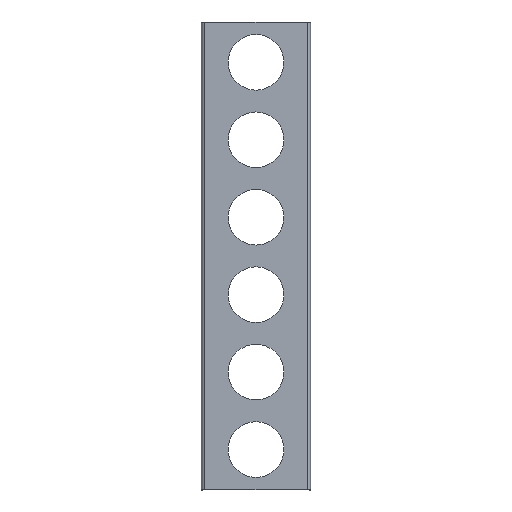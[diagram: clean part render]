
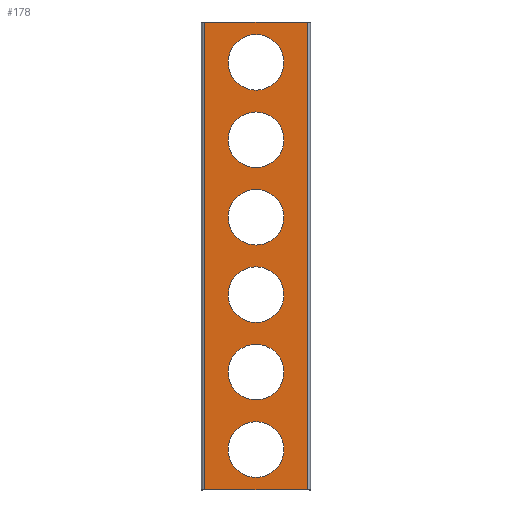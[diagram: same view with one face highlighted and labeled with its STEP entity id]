
A CAD part, top view. The second image highlights one B-rep face of the part: STEP entity #178.
In plain terms, the highlighted planar face has unit normal (0, 0, 1).
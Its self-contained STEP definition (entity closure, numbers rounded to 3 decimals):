
#1 = CARTESIAN_POINT ( 'NONE',  ( -25.5, 179., 40. ) ) ;
#6 = VERTEX_POINT ( 'NONE', #53 ) ;
#8 = VERTEX_POINT ( 'NONE', #54 ) ;
#9 = VERTEX_POINT ( 'NONE', #1 ) ;
#13 = VERTEX_POINT ( 'NONE', #57 ) ;
#15 = VERTEX_POINT ( 'NONE', #59 ) ;
#16 = VERTEX_POINT ( 'NONE', #60 ) ;
#17 = VERTEX_POINT ( 'NONE', #61 ) ;
#19 = VERTEX_POINT ( 'NONE', #63 ) ;
#20 = VERTEX_POINT ( 'NONE', #64 ) ;
#23 = VERTEX_POINT ( 'NONE', #67 ) ;
#27 = VERTEX_POINT ( 'NONE', #71 ) ;
#28 = VERTEX_POINT ( 'NONE', #72 ) ;
#33 = VERTEX_POINT ( 'NONE', #77 ) ;
#34 = VERTEX_POINT ( 'NONE', #78 ) ;
#47 = VERTEX_POINT ( 'NONE', #91 ) ;
#52 = VERTEX_POINT ( 'NONE', #96 ) ;
#53 = CARTESIAN_POINT ( 'NONE',  ( 25.5, 108., 40. ) ) ;
#54 = CARTESIAN_POINT ( 'NONE',  ( -25.5, 108., 40. ) ) ;
#57 = CARTESIAN_POINT ( 'NONE',  ( 25.5, 250., 40. ) ) ;
#59 = CARTESIAN_POINT ( 'NONE',  ( 25.5, 321., 40. ) ) ;
#60 = CARTESIAN_POINT ( 'NONE',  ( 25.5, 179., 40. ) ) ;
#61 = CARTESIAN_POINT ( 'NONE',  ( -25.5, 321., 40. ) ) ;
#63 = CARTESIAN_POINT ( 'NONE',  ( -25.5, 250., 40. ) ) ;
#64 = CARTESIAN_POINT ( 'NONE',  ( -25.5, 37., 40. ) ) ;
#67 = CARTESIAN_POINT ( 'NONE',  ( 25.5, 37., 40. ) ) ;
#71 = CARTESIAN_POINT ( 'NONE',  ( 25.5, 392., 40. ) ) ;
#72 = CARTESIAN_POINT ( 'NONE',  ( -25.5, 392., 40. ) ) ;
#77 = CARTESIAN_POINT ( 'NONE',  ( 47., 0., 40. ) ) ;
#78 = CARTESIAN_POINT ( 'NONE',  ( -47., 0., 40. ) ) ;
#91 = CARTESIAN_POINT ( 'NONE',  ( 47., 429., 40. ) ) ;
#96 = CARTESIAN_POINT ( 'NONE',  ( -47., 429., 40. ) ) ;
#99 = CARTESIAN_POINT ( 'NONE',  ( 2., 239.5, 40. ) ) ;
#100 = PLANE ( 'NONE',  #480 ) ;
#102 = DIRECTION ( 'NONE',  ( 0., 0., 1. ) ) ;
#103 = DIRECTION ( 'NONE',  ( 1., 0., 0. ) ) ;
#155 = CARTESIAN_POINT ( 'NONE',  ( 0., 108., 40. ) ) ;
#164 = CIRCLE ( 'NONE', #512, 25.5 ) ;
#178 = ADVANCED_FACE ( 'NONE', ( #787, #785, #783, #781, #779, #788, #784 ), #100, .T. ) ;
#254 = CARTESIAN_POINT ( 'NONE',  ( 0., 179., 40. ) ) ;
#262 = DIRECTION ( 'NONE',  ( 0., 0., -1. ) ) ;
#263 = DIRECTION ( 'NONE',  ( 1., 0., 0. ) ) ;
#284 = CARTESIAN_POINT ( 'NONE',  ( 1., 429., 40. ) ) ;
#285 = DIRECTION ( 'NONE',  ( 1., 0., 0. ) ) ;
#290 = DIRECTION ( 'NONE',  ( 0., 0., -1. ) ) ;
#291 = DIRECTION ( 'NONE',  ( 1., 0., 0. ) ) ;
#292 = CARTESIAN_POINT ( 'NONE',  ( 0., 179., 40. ) ) ;
#293 = DIRECTION ( 'NONE',  ( 0., 0., -1. ) ) ;
#294 = DIRECTION ( 'NONE',  ( 1., 0., 0. ) ) ;
#295 = CARTESIAN_POINT ( 'NONE',  ( 0., 250., 40. ) ) ;
#296 = DIRECTION ( 'NONE',  ( 0., 0., -1. ) ) ;
#297 = DIRECTION ( 'NONE',  ( 1., 0., 0. ) ) ;
#303 = CARTESIAN_POINT ( 'NONE',  ( -47., 479., 40. ) ) ;
#304 = DIRECTION ( 'NONE',  ( 0., 1., 0. ) ) ;
#305 = CARTESIAN_POINT ( 'NONE',  ( 0., 108., 40. ) ) ;
#314 = CARTESIAN_POINT ( 'NONE',  ( 0., 37., 40. ) ) ;
#316 = CARTESIAN_POINT ( 'NONE',  ( 0., 392., 40. ) ) ;
#317 = DIRECTION ( 'NONE',  ( 0., 0., -1. ) ) ;
#318 = DIRECTION ( 'NONE',  ( 1., 0., 0. ) ) ;
#320 = DIRECTION ( 'NONE',  ( 0., 0., -1. ) ) ;
#321 = DIRECTION ( 'NONE',  ( 1., 0., 0. ) ) ;
#322 = DIRECTION ( 'NONE',  ( 0., 0., -1. ) ) ;
#323 = DIRECTION ( 'NONE',  ( 1., 0., 0. ) ) ;
#324 = CARTESIAN_POINT ( 'NONE',  ( 47., 0., 40. ) ) ;
#325 = DIRECTION ( 'NONE',  ( 0., -1., 0. ) ) ;
#331 = CARTESIAN_POINT ( 'NONE',  ( 0., 250., 40. ) ) ;
#333 = DIRECTION ( 'NONE',  ( 0., 0., -1. ) ) ;
#334 = DIRECTION ( 'NONE',  ( 1., 0., 0. ) ) ;
#363 = EDGE_LOOP ( 'NONE', ( #868, #890 ) ) ;
#416 = CARTESIAN_POINT ( 'NONE',  ( 0., 37., 40. ) ) ;
#419 = DIRECTION ( 'NONE',  ( 0., 0., -1. ) ) ;
#420 = DIRECTION ( 'NONE',  ( 1., 0., 0. ) ) ;
#421 = CARTESIAN_POINT ( 'NONE',  ( -47., 0., 40. ) ) ;
#423 = CARTESIAN_POINT ( 'NONE',  ( 0., 321., 40. ) ) ;
#424 = DIRECTION ( 'NONE',  ( 0., 0., -1. ) ) ;
#425 = DIRECTION ( 'NONE',  ( 1., 0., 0. ) ) ;
#427 = DIRECTION ( 'NONE',  ( -1., 0., 0. ) ) ;
#433 = CARTESIAN_POINT ( 'NONE',  ( 0., 321., 40. ) ) ;
#434 = DIRECTION ( 'NONE',  ( 0., 0., -1. ) ) ;
#435 = DIRECTION ( 'NONE',  ( 1., 0., 0. ) ) ;
#446 = CARTESIAN_POINT ( 'NONE',  ( 0., 392., 40. ) ) ;
#447 = DIRECTION ( 'NONE',  ( 0., 0., -1. ) ) ;
#448 = DIRECTION ( 'NONE',  ( 1., 0., 0. ) ) ;
#455 = AXIS2_PLACEMENT_3D ( 'NONE', #446, #447, #448 ) ;
#458 = EDGE_CURVE ( 'NONE', #20, #23, #713, .T. ) ;
#465 = AXIS2_PLACEMENT_3D ( 'NONE', #433, #434, #435 ) ;
#469 = EDGE_CURVE ( 'NONE', #15, #17, #707, .T. ) ;
#471 = EDGE_CURVE ( 'NONE', #33, #34, #709, .T. ) ;
#474 = AXIS2_PLACEMENT_3D ( 'NONE', #292, #293, #294 ) ;
#480 = AXIS2_PLACEMENT_3D ( 'NONE', #99, #102, #103 ) ;
#481 = EDGE_CURVE ( 'NONE', #17, #15, #700, .T. ) ;
#489 = EDGE_CURVE ( 'NONE', #27, #28, #685, .T. ) ;
#495 = AXIS2_PLACEMENT_3D ( 'NONE', #416, #419, #420 ) ;
#501 = AXIS2_PLACEMENT_3D ( 'NONE', #423, #424, #425 ) ;
#512 = AXIS2_PLACEMENT_3D ( 'NONE', #254, #262, #263 ) ;
#520 = AXIS2_PLACEMENT_3D ( 'NONE', #331, #333, #334 ) ;
#522 = AXIS2_PLACEMENT_3D ( 'NONE', #316, #322, #323 ) ;
#523 = AXIS2_PLACEMENT_3D ( 'NONE', #314, #317, #318 ) ;
#525 = AXIS2_PLACEMENT_3D ( 'NONE', #305, #320, #321 ) ;
#530 = AXIS2_PLACEMENT_3D ( 'NONE', #295, #296, #297 ) ;
#531 = AXIS2_PLACEMENT_3D ( 'NONE', #155, #290, #291 ) ;
#538 = EDGE_CURVE ( 'NONE', #52, #47, #672, .T. ) ;
#540 = EDGE_CURVE ( 'NONE', #8, #6, #667, .T. ) ;
#541 = EDGE_CURVE ( 'NONE', #9, #16, #666, .T. ) ;
#542 = EDGE_CURVE ( 'NONE', #19, #13, #664, .T. ) ;
#545 = EDGE_CURVE ( 'NONE', #34, #52, #675, .T. ) ;
#553 = EDGE_CURVE ( 'NONE', #23, #20, #652, .T. ) ;
#554 = EDGE_CURVE ( 'NONE', #6, #8, #650, .T. ) ;
#555 = EDGE_CURVE ( 'NONE', #28, #27, #648, .T. ) ;
#556 = EDGE_CURVE ( 'NONE', #47, #33, #654, .T. ) ;
#560 = EDGE_CURVE ( 'NONE', #13, #19, #639, .T. ) ;
#589 = EDGE_CURVE ( 'NONE', #16, #9, #164, .T. ) ;
#633 = EDGE_LOOP ( 'NONE', ( #837, #842 ) ) ;
#639 = CIRCLE ( 'NONE', #520, 25.5 ) ;
#648 = CIRCLE ( 'NONE', #522, 25.5 ) ;
#650 = CIRCLE ( 'NONE', #525, 25.5 ) ;
#651 = VECTOR ( 'NONE', #325, 1000. ) ;
#652 = CIRCLE ( 'NONE', #523, 25.5 ) ;
#654 = LINE ( 'NONE', #324, #651 ) ;
#664 = CIRCLE ( 'NONE', #530, 25.5 ) ;
#666 = CIRCLE ( 'NONE', #474, 25.5 ) ;
#667 = CIRCLE ( 'NONE', #531, 25.5 ) ;
#670 = VECTOR ( 'NONE', #304, 1000. ) ;
#671 = VECTOR ( 'NONE', #285, 1000. ) ;
#672 = LINE ( 'NONE', #284, #671 ) ;
#675 = LINE ( 'NONE', #303, #670 ) ;
#685 = CIRCLE ( 'NONE', #455, 25.5 ) ;
#700 = CIRCLE ( 'NONE', #465, 25.5 ) ;
#707 = CIRCLE ( 'NONE', #501, 25.5 ) ;
#709 = LINE ( 'NONE', #421, #717 ) ;
#713 = CIRCLE ( 'NONE', #495, 25.5 ) ;
#717 = VECTOR ( 'NONE', #427, 1000. ) ;
#730 = EDGE_LOOP ( 'NONE', ( #844, #912 ) ) ;
#775 = EDGE_LOOP ( 'NONE', ( #871, #911 ) ) ;
#779 = FACE_BOUND ( 'NONE', #815, .T. ) ;
#781 = FACE_BOUND ( 'NONE', #730, .T. ) ;
#783 = FACE_BOUND ( 'NONE', #775, .T. ) ;
#784 = FACE_OUTER_BOUND ( 'NONE', #907, .T. ) ;
#785 = FACE_BOUND ( 'NONE', #910, .T. ) ;
#787 = FACE_BOUND ( 'NONE', #363, .T. ) ;
#788 = FACE_BOUND ( 'NONE', #633, .T. ) ;
#815 = EDGE_LOOP ( 'NONE', ( #896, #869 ) ) ;
#837 = ORIENTED_EDGE ( 'NONE', *, *, #489, .T. ) ;
#842 = ORIENTED_EDGE ( 'NONE', *, *, #555, .T. ) ;
#844 = ORIENTED_EDGE ( 'NONE', *, *, #554, .T. ) ;
#845 = ORIENTED_EDGE ( 'NONE', *, *, #538, .F. ) ;
#848 = ORIENTED_EDGE ( 'NONE', *, *, #545, .F. ) ;
#849 = ORIENTED_EDGE ( 'NONE', *, *, #471, .F. ) ;
#851 = ORIENTED_EDGE ( 'NONE', *, *, #556, .F. ) ;
#868 = ORIENTED_EDGE ( 'NONE', *, *, #469, .T. ) ;
#869 = ORIENTED_EDGE ( 'NONE', *, *, #542, .T. ) ;
#871 = ORIENTED_EDGE ( 'NONE', *, *, #553, .T. ) ;
#890 = ORIENTED_EDGE ( 'NONE', *, *, #481, .T. ) ;
#895 = ORIENTED_EDGE ( 'NONE', *, *, #541, .T. ) ;
#896 = ORIENTED_EDGE ( 'NONE', *, *, #560, .T. ) ;
#907 = EDGE_LOOP ( 'NONE', ( #845, #848, #849, #851 ) ) ;
#909 = ORIENTED_EDGE ( 'NONE', *, *, #589, .T. ) ;
#910 = EDGE_LOOP ( 'NONE', ( #909, #895 ) ) ;
#911 = ORIENTED_EDGE ( 'NONE', *, *, #458, .T. ) ;
#912 = ORIENTED_EDGE ( 'NONE', *, *, #540, .T. ) ;
